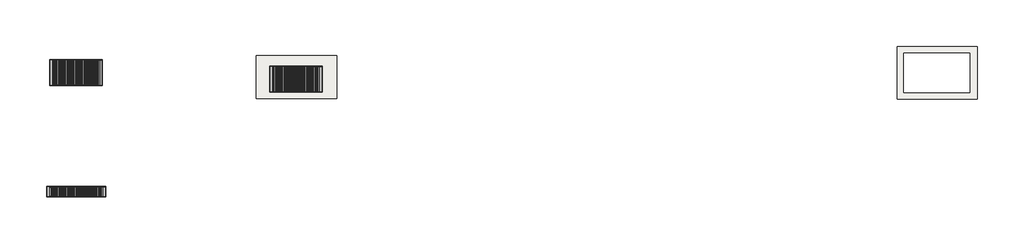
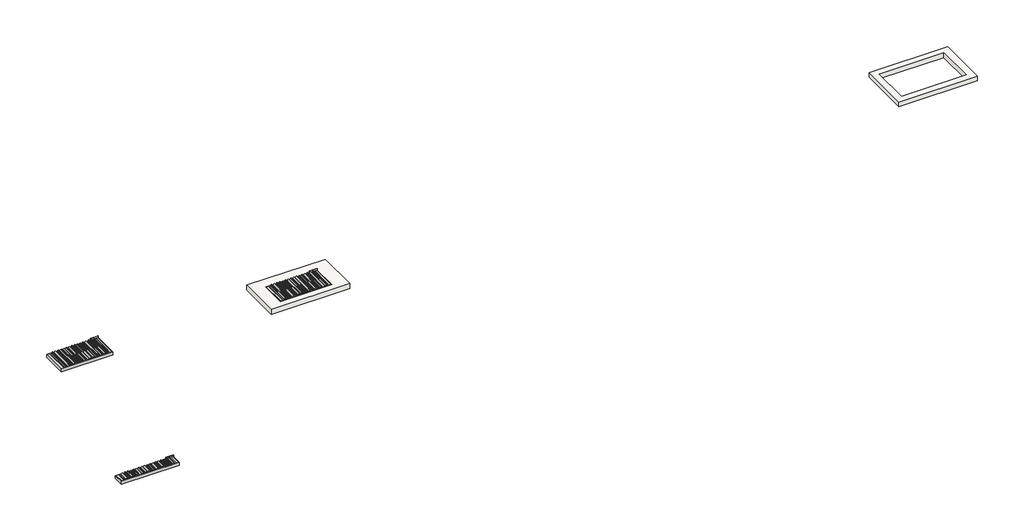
# One storey: 3 proxies, 2 roofs.
"""IFC4 building model written with IfcOpenShell, lengths in millimetres."""

import ifcopenshell
import ifcopenshell.guid

model = None  # the IFC model being written
_history = None  # IfcOwnerHistory: only IFC2X3 demands one
_inside = {}  # id of a spatial element -> (the spatial element, [elements in it])
_under = {}  # id of a project, library or spatial element -> (it, [spatial elements below it])
_declared = {}  # id of a project -> (the project, [libraries it declares])
_typed = {}  # id of a type object -> (the type object, [elements of that type])
_made_of = {}  # id of a material, layer set ... -> (it, [elements and type objects made of it])


def new_model(schema):
    """Start an empty IFC model of exactly this schema.

    Asked for "IFC4X3", IfcOpenShell would pick the latest addendum, in which some entities
    have other attributes; the version numbers below select the first issue.
    IFC2X3 requires an IfcOwnerHistory on every rooted entity: one is made here for all.
    """
    global model, _history
    if schema == "IFC4X3":
        model = ifcopenshell.file(schema_version=(4, 3, 0, 0))
    else:
        model = ifcopenshell.file(schema=schema)
    _inside.clear()
    _under.clear()
    _declared.clear()
    _typed.clear()
    _made_of.clear()
    _history = None
    if model.schema == "IFC2X3":
        org = make("IfcOrganization", Name="unknown")
        user = make(
            "IfcPersonAndOrganization",
            ThePerson=make("IfcPerson", FamilyName="unknown"),
            TheOrganization=org,
        )
        app = make(
            "IfcApplication",
            ApplicationDeveloper=org,
            Version="unknown",
            ApplicationFullName="unknown",
            ApplicationIdentifier="unknown",
        )
        _history = make(
            "IfcOwnerHistory",
            OwningUser=user,
            OwningApplication=app,
            ChangeAction="ADDED",
            CreationDate=0,
        )
    return model


def make(cls, **values):
    """One entity of the class cls with the attributes given. An attribute that is None is left unset."""
    return model.create_entity(
        cls, **{name: value for name, value in values.items() if value is not None}
    )


def rooted(cls, **values):
    """An entity with a GlobalId (a new one), such as an element, a storey or a relation."""
    return make(cls, GlobalId=ifcopenshell.guid.new(), OwnerHistory=_history, **values)


def si_unit(unit_type, name, prefix=None):
    """IfcSIUnit, for example si_unit("LENGTHUNIT", "METRE", prefix="MILLI")."""
    return make("IfcSIUnit", UnitType=unit_type, Prefix=prefix, Name=name)


def assignment(units):
    """IfcUnitAssignment: the units of a project."""
    return None if units is None else make("IfcUnitAssignment", Units=units)


def point(xyz):
    """IfcCartesianPoint."""
    return None if xyz is None else make("IfcCartesianPoint", Coordinates=xyz)


def direction(xyz):
    """IfcDirection."""
    return None if xyz is None else make("IfcDirection", DirectionRatios=xyz)


def frame(location, z_axis=None, x_axis=None):
    """IfcAxis2Placement3D, a coordinate frame: its origin and axes. An axis left out is left unset."""
    return make(
        "IfcAxis2Placement3D",
        Location=point(location),
        Axis=direction(z_axis),
        RefDirection=direction(x_axis),
    )


def frame_2d(location, x_axis=None):
    """IfcAxis2Placement2D, a coordinate frame in the plane: its origin and x axis."""
    return make(
        "IfcAxis2Placement2D", Location=point(location), RefDirection=direction(x_axis)
    )


def origin():
    """The frame at (0, 0, 0) with its axes left unset."""
    return frame((0.0, 0.0, 0.0))


def origin_with_axes():
    """The frame at (0, 0, 0) with the z axis (0, 0, 1) and the x axis (1, 0, 0) written out."""
    return frame((0.0, 0.0, 0.0), z_axis=(0.0, 0.0, 1.0), x_axis=(1.0, 0.0, 0.0))


def place(relative_to, where):
    """IfcLocalPlacement: puts the frame where relative to a parent placement (None: the world)."""
    return make(
        "IfcLocalPlacement", PlacementRelTo=relative_to, RelativePlacement=where
    )


def context(
    kind, dimensions, precision=None, world=None, true_north=None, identifier=None
):
    """IfcGeometricRepresentationContext, for example the 3D "Model" context."""
    return make(
        "IfcGeometricRepresentationContext",
        ContextIdentifier=identifier,
        ContextType=kind,
        CoordinateSpaceDimension=dimensions,
        Precision=precision,
        WorldCoordinateSystem=world,
        TrueNorth=true_north,
    )


def project(units=None, contexts=None):
    """IfcProject with its units and contexts."""
    return rooted(
        "IfcProject",
        Name="project",
        RepresentationContexts=contexts,
        UnitsInContext=assignment(units),
    )


def spatial(cls, under=None, at=None, **own):
    """A site, building, storey or space (cls), placed at a placement, below another one or the project."""
    s = rooted(cls, ObjectPlacement=at, **own)
    if under is not None:
        _under.setdefault(under.id(), (under, []))[1].append(s)
    return s


def polyline(points):
    """IfcPolyline through the points."""
    return make("IfcPolyline", Points=[point(p) for p in points])


def circle_curve(where, radius):
    """IfcCircle in the frame where."""
    return make("IfcCircle", Position=where, Radius=radius)


def trimmed(basis, trim1, trim2, sense, master):
    """IfcTrimmedCurve: the piece of a basis curve between two trims."""
    return make(
        "IfcTrimmedCurve",
        BasisCurve=basis,
        Trim1=trim1,
        Trim2=trim2,
        SenseAgreement=sense,
        MasterRepresentation=master,
    )


def segment(curve, same_sense, transition):
    """IfcCompositeCurveSegment."""
    return make(
        "IfcCompositeCurveSegment",
        Transition=transition,
        SameSense=same_sense,
        ParentCurve=curve,
    )


def composite_curve(segments, self_intersect=None):
    """IfcCompositeCurve: segments joined end to end."""
    return make("IfcCompositeCurve", Segments=segments, SelfIntersect=self_intersect)


def outline(outer, holes=None, kind="AREA"):
    """IfcArbitraryClosedProfileDef: a profile drawn as a closed curve; with holes, ...WithVoids."""
    if holes is None:
        return make("IfcArbitraryClosedProfileDef", ProfileType=kind, OuterCurve=outer)
    return make(
        "IfcArbitraryProfileDefWithVoids",
        ProfileType=kind,
        OuterCurve=outer,
        InnerCurves=holes,
    )


def extrude(swept, where, along, depth):
    """IfcExtrudedAreaSolid: the profile swept, set in the frame where, extruded along a direction by depth."""
    return make(
        "IfcExtrudedAreaSolid",
        SweptArea=swept,
        Position=where,
        ExtrudedDirection=direction(along),
        Depth=depth,
    )


def faces_of(points, faces, orient=None, outer=None):
    """IfcFace entities. A face is a list of loops; a loop is a list of indices into points, from 0.

    orient and outer hold one flag for each loop. By default every Orientation is true, the
    first loop of a face is its IfcFaceOuterBound and the others are IfcFaceBound.
    """
    made = []
    for i, loops in enumerate(faces):
        bounds = []
        for j, loop in enumerate(loops):
            is_outer = j == 0 if outer is None else outer[i][j]
            bounds.append(
                make(
                    "IfcFaceOuterBound" if is_outer else "IfcFaceBound",
                    Bound=make("IfcPolyLoop", Polygon=[points[k] for k in loop]),
                    Orientation=True if orient is None else orient[i][j],
                )
            )
        made.append(make("IfcFace", Bounds=bounds))
    return made


def faceted_brep(points, faces, orient=None, outer=None, voids=None):
    """IfcFacetedBrep: a solid bounded by flat faces; with voids (closed shells), ...WithVoids."""
    shared = [point(p) for p in points]
    hull = make("IfcClosedShell", CfsFaces=faces_of(shared, faces, orient, outer))
    if voids is None:
        return make("IfcFacetedBrep", Outer=hull)
    return make(
        "IfcFacetedBrepWithVoids",
        Outer=hull,
        Voids=[
            make(cls, CfsFaces=faces_of(shared, fs, o, b)) for cls, fs, o, b in voids
        ],
    )


def shape(context_of_items, identifier, shape_type, items):
    """IfcShapeRepresentation: the items that make up one representation, for example the "Body"."""
    return make(
        "IfcShapeRepresentation",
        ContextOfItems=context_of_items,
        RepresentationIdentifier=identifier,
        RepresentationType=shape_type,
        Items=items,
    )


def source(mapping_origin, context_of_items, identifier, shape_type, items):
    """IfcRepresentationMap: a shape defined once, which mapped items show again and again."""
    return make(
        "IfcRepresentationMap",
        MappingOrigin=mapping_origin,
        MappedRepresentation=shape(context_of_items, identifier, shape_type, items),
    )


def transform(
    local_origin,
    x_axis=None,
    y_axis=None,
    z_axis=None,
    scale=None,
    scale2=None,
    scale3=None,
    uniform=True,
):
    """IfcCartesianTransformationOperator3D, or its non-uniform kind. x_axis, y_axis, z_axis: its Axis1, 2, 3."""
    if uniform:
        return make(
            "IfcCartesianTransformationOperator3D",
            Axis1=direction(x_axis),
            Axis2=direction(y_axis),
            LocalOrigin=point(local_origin),
            Scale=scale,
            Axis3=direction(z_axis),
        )
    return make(
        "IfcCartesianTransformationOperator3DnonUniform",
        Axis1=direction(x_axis),
        Axis2=direction(y_axis),
        LocalOrigin=point(local_origin),
        Scale=scale,
        Axis3=direction(z_axis),
        Scale2=scale2,
        Scale3=scale3,
    )


def mapped(mapping_source, mapping_target):
    """IfcMappedItem: shows the shape of a source again, moved by a transform."""
    return make(
        "IfcMappedItem", MappingSource=mapping_source, MappingTarget=mapping_target
    )


def made_of(thing, what):
    """Note that an element or type object is made of a material, layer set ...; save() writes the relation."""
    if what is not None:
        _made_of.setdefault(what.id(), (what, []))[1].append(thing)
    return thing


def element(
    cls,
    number,
    at=None,
    inside=None,
    cuts=None,
    type_object=None,
    material=None,
    context=None,
    identifier="Body",
    shape_type=None,
    held_by="IfcProductDefinitionShape",
    body=None,
    shapes=None,
    **own,
):
    """One element of the class cls, such as IfcWall. Its Tag is "e" and its number.

    at: its placement. inside: the storey or other place that contains it. cuts: it is an
    opening in that element (IfcRelVoidsElement). A single representation is given by context,
    identifier, shape_type and body (its items); several are given by shapes. held_by: the class
    of the entity that holds the representations. save() writes the other relations.
    """
    e = rooted(cls, Tag="e%d" % number, ObjectPlacement=at, **own)
    if body is not None:
        shapes = [shape(context, identifier, shape_type, body)]
    if shapes is not None:
        e.Representation = make(held_by, Representations=shapes)
    if inside is not None:
        _inside.setdefault(inside.id(), (inside, []))[1].append(e)
    if cuts is not None:
        rooted(
            "IfcRelVoidsElement", RelatingBuildingElement=cuts, RelatedOpeningElement=e
        )
    if type_object is not None:
        _typed.setdefault(type_object.id(), (type_object, []))[1].append(e)
    return made_of(e, material)


def aggregate(whole, parts):
    """IfcRelAggregates: a whole, such as a stair, and the parts it consists of."""
    return rooted("IfcRelAggregates", RelatingObject=whole, RelatedObjects=parts)


def save(model, path):
    """Write the relations noted so far, then the file.

    IfcRelAggregates (storeys below a building ...), IfcRelContainedInSpatialStructure (elements
    in a storey), IfcRelDefinesByType, IfcRelAssociatesMaterial and IfcRelDeclares: one each for
    every whole, place, type object, material and project.
    """
    for whole, parts in _under.values():
        aggregate(whole, parts)
    for where, things in _inside.values():
        rooted(
            "IfcRelContainedInSpatialStructure",
            RelatedElements=things,
            RelatingStructure=where,
        )
    for kind, things in _typed.values():
        rooted("IfcRelDefinesByType", RelatedObjects=things, RelatingType=kind)
    for what, things in _made_of.values():
        rooted("IfcRelAssociatesMaterial", RelatedObjects=things, RelatingMaterial=what)
    for by, libraries in _declared.values():
        rooted("IfcRelDeclares", RelatingContext=by, RelatedDefinitions=libraries)
    model.write(path)


def generic_models_456f33a1(model_context):
    return source(origin(), model_context, "Body", "SolidModel", [
        extrude(outline(composite_curve([segment(polyline([(38.6941425, 1454.2920378), (58.328832, 1434.6573482), (81.3082125, 1452.1312752), (91.2056128, 1434.9884749), (3.54674, 1368.3311191)]), True, "CONTINUOUS"), segment(trimmed(circle_curve(frame_2d((-5.5326698, 1380.2711491)), 15.0), [point((3.54674, 1368.3311191))], [point((-15.174484, 1368.7804825))], False, "CARTESIAN"), True, "CONTINUOUS"), segment(polyline([(-15.174484, 1368.7804825), (-30.1324311, 1381.3316904), (-97.3419348, 1324.9362206), (-88.6707887, 1309.9173551), (-100.8453082, 1300.6596354), (-120.7163908, 1320.5307181), (38.6941425, 1454.2920378)]), True, "CONTINUOUS")], self_intersect=False)), frame((0.0, -935.0, 0.0), z_axis=(0.0, 1.0, 0.0), x_axis=(0.0, 0.0, 1.0)), (0.0, 0.0, 1.0), 1870.0),
        extrude(outline(composite_curve([segment(polyline([(38.6941425, 1239.2805127), (58.328832, 1219.6458231), (81.3082125, 1237.1197501), (91.2056128, 1219.9769498), (3.54674, 1153.319594)]), True, "CONTINUOUS"), segment(trimmed(circle_curve(frame_2d((-5.5326698, 1165.259624)), 15.0), [point((3.54674, 1153.319594))], [point((-15.174484, 1153.7689574))], False, "CARTESIAN"), True, "CONTINUOUS"), segment(polyline([(-15.174484, 1153.7689574), (-30.1324311, 1166.3201653), (-97.3419348, 1109.9246955), (-88.6707887, 1094.90583), (-100.8453082, 1085.6481103), (-120.7163908, 1105.519193), (38.6941425, 1239.2805127)]), True, "CONTINUOUS")], self_intersect=False)), frame((0.0, -935.0, 0.0), z_axis=(0.0, 1.0, 0.0), x_axis=(0.0, 0.0, 1.0)), (0.0, 0.0, 1.0), 1870.0),
        extrude(outline(composite_curve([segment(polyline([(38.6941425, 1024.2689876), (58.328832, 1004.634298), (81.3082125, 1022.108225), (91.2056128, 1004.9654247), (3.54674, 938.3080689)]), True, "CONTINUOUS"), segment(trimmed(circle_curve(frame_2d((-5.5326698, 950.2480989)), 15.0), [point((3.54674, 938.3080689))], [point((-15.174484, 938.7574323))], False, "CARTESIAN"), True, "CONTINUOUS"), segment(polyline([(-15.174484, 938.7574323), (-30.1324311, 951.3086402), (-97.3419348, 894.9131704), (-88.6707887, 879.8943049), (-100.8453082, 870.6365852), (-120.7163908, 890.5076679), (38.6941425, 1024.2689876)]), True, "CONTINUOUS")], self_intersect=False)), frame((0.0, -935.0, 0.0), z_axis=(0.0, 1.0, 0.0), x_axis=(0.0, 0.0, 1.0)), (0.0, 0.0, 1.0), 1870.0),
        extrude(outline(composite_curve([segment(polyline([(38.6941425, 809.2574625), (58.328832, 789.6227729), (81.3082125, 807.0966999), (91.2056128, 789.9538996), (3.54674, 723.2965438)]), True, "CONTINUOUS"), segment(trimmed(circle_curve(frame_2d((-5.5326698, 735.2365738)), 15.0), [point((3.54674, 723.2965438))], [point((-15.174484, 723.7459072))], False, "CARTESIAN"), True, "CONTINUOUS"), segment(polyline([(-15.174484, 723.7459072), (-30.1324311, 736.2971151), (-97.3419348, 679.9016453), (-88.6707887, 664.8827798), (-100.8453082, 655.6250601), (-120.7163908, 675.4961428), (38.6941425, 809.2574625)]), True, "CONTINUOUS")], self_intersect=False)), frame((0.0, -935.0, 0.0), z_axis=(0.0, 1.0, 0.0), x_axis=(0.0, 0.0, 1.0)), (0.0, 0.0, 1.0), 1870.0),
        extrude(outline(composite_curve([segment(polyline([(38.6941425, 594.2459374), (58.328832, 574.6112478), (81.3082125, 592.0851748), (91.2056128, 574.9423745), (3.54674, 508.2850187)]), True, "CONTINUOUS"), segment(trimmed(circle_curve(frame_2d((-5.5326698, 520.2250487)), 15.0), [point((3.54674, 508.2850187))], [point((-15.174484, 508.7343821))], False, "CARTESIAN"), True, "CONTINUOUS"), segment(polyline([(-15.174484, 508.7343821), (-30.1324311, 521.28559), (-97.3419348, 464.8901202), (-88.6707887, 449.8712547), (-100.8453082, 440.613535), (-120.7163908, 460.4846177), (38.6941425, 594.2459374)]), True, "CONTINUOUS")], self_intersect=False)), frame((0.0, -935.0, 0.0), z_axis=(0.0, 1.0, 0.0), x_axis=(0.0, 0.0, 1.0)), (0.0, 0.0, 1.0), 1870.0),
        extrude(outline(composite_curve([segment(polyline([(38.6941425, 379.2344123), (58.328832, 359.5997227), (81.3082125, 377.0736497), (91.2056128, 359.9308494), (3.54674, 293.2734936)]), True, "CONTINUOUS"), segment(trimmed(circle_curve(frame_2d((-5.5326698, 305.2135236)), 15.0), [point((3.54674, 293.2734936))], [point((-15.174484, 293.722857))], False, "CARTESIAN"), True, "CONTINUOUS"), segment(polyline([(-15.174484, 293.722857), (-30.1324311, 306.2740649), (-97.3419348, 249.8785951), (-88.6707887, 234.8597296), (-100.8453082, 225.6020099), (-120.7163908, 245.4730926), (38.6941425, 379.2344123)]), True, "CONTINUOUS")], self_intersect=False)), frame((0.0, -935.0, 0.0), z_axis=(0.0, 1.0, 0.0), x_axis=(0.0, 0.0, 1.0)), (0.0, 0.0, 1.0), 1870.0),
        extrude(outline(composite_curve([segment(polyline([(38.6941425, 164.2228872), (58.328832, 144.5881976), (81.3082125, 162.0621246), (91.2056128, 144.9193243), (3.54674, 78.2619685)]), True, "CONTINUOUS"), segment(trimmed(circle_curve(frame_2d((-5.5326698, 90.2019985)), 15.0), [point((3.54674, 78.2619685))], [point((-15.174484, 78.7113319))], False, "CARTESIAN"), True, "CONTINUOUS"), segment(polyline([(-15.174484, 78.7113319), (-30.1324311, 91.2625398), (-97.3419348, 34.86707), (-88.6707887, 19.8482045), (-100.8453082, 10.5904848), (-120.7163908, 30.4615675), (38.6941425, 164.2228872)]), True, "CONTINUOUS")], self_intersect=False)), frame((0.0, -935.0, 0.0), z_axis=(0.0, 1.0, 0.0), x_axis=(0.0, 0.0, 1.0)), (0.0, 0.0, 1.0), 1870.0),
        extrude(outline(composite_curve([segment(polyline([(38.6941425, -50.7886379), (58.328832, -70.4233275), (81.3082125, -52.9494005), (91.2056128, -70.0922008), (3.54674, -136.7495566)]), True, "CONTINUOUS"), segment(trimmed(circle_curve(frame_2d((-5.5326698, -124.8095266)), 15.0), [point((3.54674, -136.7495566))], [point((-15.174484, -136.3001932))], False, "CARTESIAN"), True, "CONTINUOUS"), segment(polyline([(-15.174484, -136.3001932), (-30.1324311, -123.7489853), (-97.3419348, -180.1444551), (-88.6707887, -195.1633206), (-100.8453082, -204.4210403), (-120.7163908, -184.5499576), (38.6941425, -50.7886379)]), True, "CONTINUOUS")], self_intersect=False)), frame((0.0, -935.0, 0.0), z_axis=(0.0, 1.0, 0.0), x_axis=(0.0, 0.0, 1.0)), (0.0, 0.0, 1.0), 1870.0),
        extrude(outline(composite_curve([segment(polyline([(38.6941425, -265.800163), (58.328832, -285.4348526), (81.3082125, -267.9609256), (91.2056128, -285.1037259), (3.54674, -351.7610817)]), True, "CONTINUOUS"), segment(trimmed(circle_curve(frame_2d((-5.5326698, -339.8210517)), 15.0), [point((3.54674, -351.7610817))], [point((-15.174484, -351.3117183))], False, "CARTESIAN"), True, "CONTINUOUS"), segment(polyline([(-15.174484, -351.3117183), (-30.1324311, -338.7605104), (-97.3419348, -395.1559802), (-88.6707887, -410.1748457), (-100.8453082, -419.4325654), (-120.7163908, -399.5614827), (38.6941425, -265.800163)]), True, "CONTINUOUS")], self_intersect=False)), frame((0.0, -935.0, 0.0), z_axis=(0.0, 1.0, 0.0), x_axis=(0.0, 0.0, 1.0)), (0.0, 0.0, 1.0), 1870.0),
        extrude(outline(composite_curve([segment(polyline([(38.6941425, -480.8116881), (58.328832, -500.4463777), (81.3082125, -482.9724507), (91.2056128, -500.115251), (3.54674, -566.7726068)]), True, "CONTINUOUS"), segment(trimmed(circle_curve(frame_2d((-5.5326698, -554.8325768)), 15.0), [point((3.54674, -566.7726068))], [point((-15.174484, -566.3232434))], False, "CARTESIAN"), True, "CONTINUOUS"), segment(polyline([(-15.174484, -566.3232434), (-30.1324311, -553.7720355), (-97.3419348, -610.1675053), (-88.6707887, -625.1863708), (-100.8453082, -634.4440905), (-120.7163908, -614.5730078), (38.6941425, -480.8116881)]), True, "CONTINUOUS")], self_intersect=False)), frame((0.0, -935.0, 0.0), z_axis=(0.0, 1.0, 0.0), x_axis=(0.0, 0.0, 1.0)), (0.0, 0.0, 1.0), 1870.0),
        extrude(outline(composite_curve([segment(polyline([(38.6941425, -695.8232132), (58.328832, -715.4579028), (81.3082125, -697.9839758), (91.2056128, -715.1267761), (3.54674, -781.7841319)]), True, "CONTINUOUS"), segment(trimmed(circle_curve(frame_2d((-5.5326698, -769.8441019)), 15.0), [point((3.54674, -781.7841319))], [point((-15.174484, -781.3347685))], False, "CARTESIAN"), True, "CONTINUOUS"), segment(polyline([(-15.174484, -781.3347685), (-30.1324311, -768.7835606), (-97.3419348, -825.1790304), (-88.6707887, -840.1978959), (-100.8453082, -849.4556156), (-120.7163908, -829.5845329), (38.6941425, -695.8232132)]), True, "CONTINUOUS")], self_intersect=False)), frame((0.0, -935.0, 0.0), z_axis=(0.0, 1.0, 0.0), x_axis=(0.0, 0.0, 1.0)), (0.0, 0.0, 1.0), 1870.0),
        extrude(outline(composite_curve([segment(polyline([(38.6941425, -910.8347383), (58.328832, -930.4694279), (81.3082125, -912.9955009), (91.2056128, -930.1383012), (3.54674, -996.795657)]), True, "CONTINUOUS"), segment(trimmed(circle_curve(frame_2d((-5.5326698, -984.855627)), 15.0), [point((3.54674, -996.795657))], [point((-15.174484, -996.3462936))], False, "CARTESIAN"), True, "CONTINUOUS"), segment(polyline([(-15.174484, -996.3462936), (-30.1324311, -983.7950857), (-97.3419348, -1040.1905555), (-88.6707887, -1055.209421), (-100.8453082, -1064.4671407), (-120.7163908, -1044.596058), (38.6941425, -910.8347383)]), True, "CONTINUOUS")], self_intersect=False)), frame((0.0, -935.0, 0.0), z_axis=(0.0, 1.0, 0.0), x_axis=(0.0, 0.0, 1.0)), (0.0, 0.0, 1.0), 1870.0),
        extrude(outline(composite_curve([segment(polyline([(38.6941425, -1125.8462634), (58.328832, -1145.480953), (81.3082125, -1128.007026), (91.2056128, -1145.1498263), (3.54674, -1211.8071821)]), True, "CONTINUOUS"), segment(trimmed(circle_curve(frame_2d((-5.5326698, -1199.8671521)), 15.0), [point((3.54674, -1211.8071821))], [point((-15.174484, -1211.3578187))], False, "CARTESIAN"), True, "CONTINUOUS"), segment(polyline([(-15.174484, -1211.3578187), (-30.1324311, -1198.8066108), (-97.3419348, -1255.2020806), (-88.6707887, -1270.2209461), (-100.8453082, -1279.4786658), (-120.7163908, -1259.6075831), (38.6941425, -1125.8462634)]), True, "CONTINUOUS")], self_intersect=False)), frame((0.0, -935.0, 0.0), z_axis=(0.0, 1.0, 0.0), x_axis=(0.0, 0.0, 1.0)), (0.0, 0.0, 1.0), 1870.0),
        extrude(outline(composite_curve([segment(polyline([(38.6941425, -1340.8577885), (58.328832, -1360.4924781), (81.3082125, -1343.0185511), (91.2056128, -1360.1613514), (3.54674, -1426.8187072)]), True, "CONTINUOUS"), segment(trimmed(circle_curve(frame_2d((-5.5326698, -1414.8786772)), 15.0), [point((3.54674, -1426.8187072))], [point((-15.174484, -1426.3693438))], False, "CARTESIAN"), True, "CONTINUOUS"), segment(polyline([(-15.174484, -1426.3693438), (-30.1324311, -1413.8181359), (-97.3419348, -1470.2136057), (-88.6707887, -1485.2324712), (-100.8453082, -1494.4901909), (-120.7163908, -1474.6191082), (38.6941425, -1340.8577885)]), True, "CONTINUOUS")], self_intersect=False)), frame((0.0, -935.0, 0.0), z_axis=(0.0, 1.0, 0.0), x_axis=(0.0, 0.0, 1.0)), (0.0, 0.0, 1.0), 1870.0),
        extrude(outline(composite_curve([segment(polyline([(38.6941425, 1669.3035629), (58.328832, 1649.6688733), (81.3082125, 1667.1428003), (91.2056128, 1650.0), (3.54674, 1583.3426442)]), True, "CONTINUOUS"), segment(trimmed(circle_curve(frame_2d((-5.5326698, 1595.2826742)), 15.0), [point((3.54674, 1583.3426442))], [point((-15.174484, 1583.7920076))], False, "CARTESIAN"), True, "CONTINUOUS"), segment(polyline([(-15.174484, 1583.7920076), (-30.1324311, 1596.3432155), (-97.3419348, 1539.9477457), (-88.6707887, 1524.9288802), (-100.8453082, 1515.6711605), (-120.7163908, 1535.5422432), (38.6941425, 1669.3035629)]), True, "CONTINUOUS")], self_intersect=False)), frame((0.0, -935.0, 0.0), z_axis=(0.0, 1.0, 0.0), x_axis=(0.0, 0.0, 1.0)), (0.0, 0.0, 1.0), 1870.0),
        extrude(outline(composite_curve([segment(polyline([(38.6941425, -1555.8693136), (58.328832, -1575.5040032), (81.3082125, -1558.0300762), (91.2056128, -1575.1728765), (3.54674, -1641.8302323)]), True, "CONTINUOUS"), segment(trimmed(circle_curve(frame_2d((-5.5326698, -1629.8902023)), 15.0), [point((3.54674, -1641.8302323))], [point((-15.174484, -1641.3808689))], False, "CARTESIAN"), True, "CONTINUOUS"), segment(polyline([(-15.174484, -1641.3808689), (-30.1324311, -1628.829661), (-97.3419348, -1685.2251308), (-88.6707887, -1700.2439963), (-100.8453082, -1709.501716), (-120.7163908, -1689.6306333), (38.6941425, -1555.8693136)]), True, "CONTINUOUS")], self_intersect=False)), frame((0.0, -935.0, 0.0), z_axis=(0.0, 1.0, 0.0), x_axis=(0.0, 0.0, 1.0)), (0.0, 0.0, 1.0), 1870.0),
        extrude(outline(polyline([(-63.35, 1960.0), (0.0, 1960.0), (0.0, 1830.5), (-20.0, 1830.5), (-20.0, 1650.0), (-44.0, 1650.0), (-44.0, 1800.0), (-63.35, 1800.0), (-63.35, 1960.0)])), frame((0.0, -960.0, 0.0), z_axis=(0.0, 1.0, 0.0), x_axis=(0.0, 0.0, 1.0)), (0.0, 0.0, 1.0), 1920.0),
        extrude(outline(polyline([(0.0, -1800.0), (0.0, -1960.0), (-44.0, -1960.0), (-44.0, -1827.3193336), (-10.8283397, -1824.4171894), (-9.655498, -1800.0), (0.0, -1800.0)])), frame((0.0, -960.0, 0.0), z_axis=(0.0, 1.0, 0.0), x_axis=(0.0, 0.0, 1.0)), (0.0, 0.0, 1.0), 1920.0),
        extrude(outline(polyline([(2000.0, 1000.0), (2000.0, 960.0), (1410.0, 960.0), (1410.0, 1000.0), (2000.0, 1000.0)])), origin_with_axes(), (0.0, 0.0, 1.0), 130.0),
        faceted_brep([(-1960.0, 960.0, 0.0), (-1960.0, 960.0, -173.0), (1960.0, 960.0, -173.0), (1960.0, 960.0, 0.0), (-2000.0, 1000.0, -230.0), (-2000.0, 1000.0, 0.0), (2000.0, 1000.0, 0.0), (2000.0, 1000.0, -230.0), (-1890.0, 890.0, -173.0), (-1890.0, 890.0, -230.0), (1890.0, 890.0, -230.0), (1890.0, 890.0, -173.0), (1960.0, -960.0, -173.0), (1960.0, -960.0, 0.0), (2000.0, -1000.0, 0.0), (2000.0, -1000.0, -230.0), (1890.0, -890.0, -230.0), (1890.0, -890.0, -173.0), (-1960.0, -960.0, -173.0), (-1960.0, -960.0, 0.0), (-2000.0, -1000.0, 0.0), (-2000.0, -1000.0, -230.0), (-1890.0, -890.0, -230.0), (-1890.0, -890.0, -173.0)], [[[0, 1, 2, 3]], [[4, 5, 6, 7]], [[8, 9, 10, 11]], [[3, 2, 12, 13]], [[7, 6, 14, 15]], [[11, 10, 16, 17]], [[13, 12, 18, 19]], [[15, 14, 20, 21]], [[17, 16, 22, 23]], [[19, 18, 1, 0]], [[5, 20, 14, 6], [3, 13, 19, 0]], [[21, 20, 5, 4]], [[7, 15, 21, 4], [9, 22, 16, 10]], [[23, 22, 9, 8]], [[1, 18, 12, 2], [11, 17, 23, 8]]]),
    ])


def generic_models_9f0a1203(model_context):
    return source(origin(), model_context, "Body", "SolidModel", [
        extrude(outline(composite_curve([segment(polyline([(38.6941425, 1704.2933937), (58.328832, 1684.6587041), (81.3082125, 1702.1326311), (91.2056128, 1684.9898308), (3.54674, 1618.332475)]), True, "CONTINUOUS"), segment(trimmed(circle_curve(frame_2d((-5.5326698, 1630.272505)), 15.0), [point((3.54674, 1618.332475))], [point((-15.174484, 1618.7818384))], False, "CARTESIAN"), True, "CONTINUOUS"), segment(polyline([(-15.174484, 1618.7818384), (-30.1324311, 1631.3330463), (-97.3419348, 1574.9375765), (-88.6707887, 1559.918711), (-100.8453082, 1550.6609913), (-120.7163908, 1570.532074), (38.6941425, 1704.2933937)]), True, "CONTINUOUS")], self_intersect=False)), frame((0.0, -335.0, 0.0), z_axis=(0.0, 1.0, 0.0), x_axis=(0.0, 0.0, 1.0)), (0.0, 0.0, 1.0), 670.0),
        extrude(outline(composite_curve([segment(polyline([(38.6941425, 1489.2832245), (58.328832, 1469.6485349), (81.3082125, 1487.1224619), (91.2056128, 1469.9796616), (3.54674, 1403.3223058)]), True, "CONTINUOUS"), segment(trimmed(circle_curve(frame_2d((-5.5326698, 1415.2623358)), 15.0), [point((3.54674, 1403.3223058))], [point((-15.174484, 1403.7716691))], False, "CARTESIAN"), True, "CONTINUOUS"), segment(polyline([(-15.174484, 1403.7716691), (-30.1324311, 1416.3228771), (-97.3419348, 1359.9274073), (-88.6707887, 1344.9085418), (-100.8453082, 1335.6508221), (-120.7163908, 1355.5219048), (38.6941425, 1489.2832245)]), True, "CONTINUOUS")], self_intersect=False)), frame((0.0, -335.0, 0.0), z_axis=(0.0, 1.0, 0.0), x_axis=(0.0, 0.0, 1.0)), (0.0, 0.0, 1.0), 670.0),
        extrude(outline(composite_curve([segment(polyline([(38.6941425, 1274.2730553), (58.328832, 1254.6383657), (81.3082125, 1272.1122927), (91.2056128, 1254.9694924), (3.54674, 1188.3121365)]), True, "CONTINUOUS"), segment(trimmed(circle_curve(frame_2d((-5.5326698, 1200.2521666)), 15.0), [point((3.54674, 1188.3121365))], [point((-15.174484, 1188.7614999))], False, "CARTESIAN"), True, "CONTINUOUS"), segment(polyline([(-15.174484, 1188.7614999), (-30.1324311, 1201.3127079), (-97.3419348, 1144.9172381), (-88.6707887, 1129.8983726), (-100.8453082, 1120.6406529), (-120.7163908, 1140.5117356), (38.6941425, 1274.2730553)]), True, "CONTINUOUS")], self_intersect=False)), frame((0.0, -335.0, 0.0), z_axis=(0.0, 1.0, 0.0), x_axis=(0.0, 0.0, 1.0)), (0.0, 0.0, 1.0), 670.0),
        extrude(outline(composite_curve([segment(polyline([(38.6941425, 1059.2628861), (58.328832, 1039.6281965), (81.3082125, 1057.1021235), (91.2056128, 1039.9593232), (3.54674, 973.3019673)]), True, "CONTINUOUS"), segment(trimmed(circle_curve(frame_2d((-5.5326698, 985.2419974)), 15.0), [point((3.54674, 973.3019673))], [point((-15.174484, 973.7513307))], False, "CARTESIAN"), True, "CONTINUOUS"), segment(polyline([(-15.174484, 973.7513307), (-30.1324311, 986.3025387), (-97.3419348, 929.9070689), (-88.6707887, 914.8882034), (-100.8453082, 905.6304837), (-120.7163908, 925.5015664), (38.6941425, 1059.2628861)]), True, "CONTINUOUS")], self_intersect=False)), frame((0.0, -335.0, 0.0), z_axis=(0.0, 1.0, 0.0), x_axis=(0.0, 0.0, 1.0)), (0.0, 0.0, 1.0), 670.0),
        extrude(outline(composite_curve([segment(polyline([(38.6941425, 844.2527169), (58.328832, 824.6180273), (81.3082125, 842.0919543), (91.2056128, 824.949154), (3.54674, 758.2917981)]), True, "CONTINUOUS"), segment(trimmed(circle_curve(frame_2d((-5.5326698, 770.2318282)), 15.0), [point((3.54674, 758.2917981))], [point((-15.174484, 758.7411615))], False, "CARTESIAN"), True, "CONTINUOUS"), segment(polyline([(-15.174484, 758.7411615), (-30.1324311, 771.2923694), (-97.3419348, 714.8968997), (-88.6707887, 699.8780342), (-100.8453082, 690.6203145), (-120.7163908, 710.4913972), (38.6941425, 844.2527169)]), True, "CONTINUOUS")], self_intersect=False)), frame((0.0, -335.0, 0.0), z_axis=(0.0, 1.0, 0.0), x_axis=(0.0, 0.0, 1.0)), (0.0, 0.0, 1.0), 670.0),
        extrude(outline(composite_curve([segment(polyline([(38.6941425, 629.2425476), (58.328832, 609.6078581), (81.3082125, 627.0817851), (91.2056128, 609.9389848), (3.54674, 543.2816289)]), True, "CONTINUOUS"), segment(trimmed(circle_curve(frame_2d((-5.5326698, 555.221659)), 15.0), [point((3.54674, 543.2816289))], [point((-15.174484, 543.7309923))], False, "CARTESIAN"), True, "CONTINUOUS"), segment(polyline([(-15.174484, 543.7309923), (-30.1324311, 556.2822002), (-97.3419348, 499.8867305), (-88.6707887, 484.867865), (-100.8453082, 475.6101453), (-120.7163908, 495.481228), (38.6941425, 629.2425476)]), True, "CONTINUOUS")], self_intersect=False)), frame((0.0, -335.0, 0.0), z_axis=(0.0, 1.0, 0.0), x_axis=(0.0, 0.0, 1.0)), (0.0, 0.0, 1.0), 670.0),
        extrude(outline(composite_curve([segment(polyline([(38.6941425, 414.2323784), (58.328832, 394.5976889), (81.3082125, 412.0716159), (91.2056128, 394.9288156), (3.54674, 328.2714597)]), True, "CONTINUOUS"), segment(trimmed(circle_curve(frame_2d((-5.5326698, 340.2114898)), 15.0), [point((3.54674, 328.2714597))], [point((-15.174484, 328.7208231))], False, "CARTESIAN"), True, "CONTINUOUS"), segment(polyline([(-15.174484, 328.7208231), (-30.1324311, 341.272031), (-97.3419348, 284.8765613), (-88.6707887, 269.8576958), (-100.8453082, 260.5999761), (-120.7163908, 280.4710587), (38.6941425, 414.2323784)]), True, "CONTINUOUS")], self_intersect=False)), frame((0.0, -335.0, 0.0), z_axis=(0.0, 1.0, 0.0), x_axis=(0.0, 0.0, 1.0)), (0.0, 0.0, 1.0), 670.0),
        extrude(outline(composite_curve([segment(polyline([(38.6941425, 199.2222092), (58.328832, 179.5875197), (81.3082125, 197.0614467), (91.2056128, 179.9186464), (3.54674, 113.2612905)]), True, "CONTINUOUS"), segment(trimmed(circle_curve(frame_2d((-5.5326698, 125.2013206)), 15.0), [point((3.54674, 113.2612905))], [point((-15.174484, 113.7106539))], False, "CARTESIAN"), True, "CONTINUOUS"), segment(polyline([(-15.174484, 113.7106539), (-30.1324311, 126.2618618), (-97.3419348, 69.8663921), (-88.6707887, 54.8475266), (-100.8453082, 45.5898069), (-120.7163908, 65.4608895), (38.6941425, 199.2222092)]), True, "CONTINUOUS")], self_intersect=False)), frame((0.0, -335.0, 0.0), z_axis=(0.0, 1.0, 0.0), x_axis=(0.0, 0.0, 1.0)), (0.0, 0.0, 1.0), 670.0),
        extrude(outline(composite_curve([segment(polyline([(38.6941425, -15.78796), (58.328832, -35.4226495), (81.3082125, -17.9487226), (91.2056128, -35.0915229), (3.54674, -101.7488787)]), True, "CONTINUOUS"), segment(trimmed(circle_curve(frame_2d((-5.5326698, -89.8088487)), 15.0), [point((3.54674, -101.7488787))], [point((-15.174484, -101.2995153))], False, "CARTESIAN"), True, "CONTINUOUS"), segment(polyline([(-15.174484, -101.2995153), (-30.1324311, -88.7483074), (-97.3419348, -145.1437771), (-88.6707887, -160.1626426), (-100.8453082, -169.4203623), (-120.7163908, -149.5492797), (38.6941425, -15.78796)]), True, "CONTINUOUS")], self_intersect=False)), frame((0.0, -335.0, 0.0), z_axis=(0.0, 1.0, 0.0), x_axis=(0.0, 0.0, 1.0)), (0.0, 0.0, 1.0), 670.0),
        extrude(outline(composite_curve([segment(polyline([(38.6941425, -230.7981292), (58.328832, -250.4328187), (81.3082125, -232.9588918), (91.2056128, -250.1016921), (3.54674, -316.7590479)]), True, "CONTINUOUS"), segment(trimmed(circle_curve(frame_2d((-5.5326698, -304.8190179)), 15.0), [point((3.54674, -316.7590479))], [point((-15.174484, -316.3096845))], False, "CARTESIAN"), True, "CONTINUOUS"), segment(polyline([(-15.174484, -316.3096845), (-30.1324311, -303.7584766), (-97.3419348, -360.1539463), (-88.6707887, -375.1728118), (-100.8453082, -384.4305315), (-120.7163908, -364.5594489), (38.6941425, -230.7981292)]), True, "CONTINUOUS")], self_intersect=False)), frame((0.0, -335.0, 0.0), z_axis=(0.0, 1.0, 0.0), x_axis=(0.0, 0.0, 1.0)), (0.0, 0.0, 1.0), 670.0),
        extrude(outline(composite_curve([segment(polyline([(38.6941425, -445.8082984), (58.328832, -465.4429879), (81.3082125, -447.969061), (91.2056128, -465.1118613), (3.54674, -531.7692171)]), True, "CONTINUOUS"), segment(trimmed(circle_curve(frame_2d((-5.5326698, -519.8291871)), 15.0), [point((3.54674, -531.7692171))], [point((-15.174484, -531.3198537))], False, "CARTESIAN"), True, "CONTINUOUS"), segment(polyline([(-15.174484, -531.3198537), (-30.1324311, -518.7686458), (-97.3419348, -575.1641155), (-88.6707887, -590.182981), (-100.8453082, -599.4407007), (-120.7163908, -579.5696181), (38.6941425, -445.8082984)]), True, "CONTINUOUS")], self_intersect=False)), frame((0.0, -335.0, 0.0), z_axis=(0.0, 1.0, 0.0), x_axis=(0.0, 0.0, 1.0)), (0.0, 0.0, 1.0), 670.0),
        extrude(outline(composite_curve([segment(polyline([(38.6941425, -660.8184676), (58.328832, -680.4531571), (81.3082125, -662.9792302), (91.2056128, -680.1220305), (3.54674, -746.7793863)]), True, "CONTINUOUS"), segment(trimmed(circle_curve(frame_2d((-5.5326698, -734.8393563)), 15.0), [point((3.54674, -746.7793863))], [point((-15.174484, -746.3300229))], False, "CARTESIAN"), True, "CONTINUOUS"), segment(polyline([(-15.174484, -746.3300229), (-30.1324311, -733.778815), (-97.3419348, -790.1742848), (-88.6707887, -805.1931502), (-100.8453082, -814.4508699), (-120.7163908, -794.5797873), (38.6941425, -660.8184676)]), True, "CONTINUOUS")], self_intersect=False)), frame((0.0, -335.0, 0.0), z_axis=(0.0, 1.0, 0.0), x_axis=(0.0, 0.0, 1.0)), (0.0, 0.0, 1.0), 670.0),
        extrude(outline(composite_curve([segment(polyline([(38.6941425, -875.8286368), (58.328832, -895.4633263), (81.3082125, -877.9893994), (91.2056128, -895.1321997), (3.54674, -961.7895555)]), True, "CONTINUOUS"), segment(trimmed(circle_curve(frame_2d((-5.5326698, -949.8495255)), 15.0), [point((3.54674, -961.7895555))], [point((-15.174484, -961.3401921))], False, "CARTESIAN"), True, "CONTINUOUS"), segment(polyline([(-15.174484, -961.3401921), (-30.1324311, -948.7889842), (-97.3419348, -1005.184454), (-88.6707887, -1020.2033194), (-100.8453082, -1029.4610391), (-120.7163908, -1009.5899565), (38.6941425, -875.8286368)]), True, "CONTINUOUS")], self_intersect=False)), frame((0.0, -335.0, 0.0), z_axis=(0.0, 1.0, 0.0), x_axis=(0.0, 0.0, 1.0)), (0.0, 0.0, 1.0), 670.0),
        extrude(outline(composite_curve([segment(polyline([(38.6941425, -1090.838806), (58.328832, -1110.4734955), (81.3082125, -1092.9995686), (91.2056128, -1110.1423689), (3.54674, -1176.7997247)]), True, "CONTINUOUS"), segment(trimmed(circle_curve(frame_2d((-5.5326698, -1164.8596947)), 15.0), [point((3.54674, -1176.7997247))], [point((-15.174484, -1176.3503613))], False, "CARTESIAN"), True, "CONTINUOUS"), segment(polyline([(-15.174484, -1176.3503613), (-30.1324311, -1163.7991534), (-97.3419348, -1220.1946232), (-88.6707887, -1235.2134887), (-100.8453082, -1244.4712084), (-120.7163908, -1224.6001257), (38.6941425, -1090.838806)]), True, "CONTINUOUS")], self_intersect=False)), frame((0.0, -335.0, 0.0), z_axis=(0.0, 1.0, 0.0), x_axis=(0.0, 0.0, 1.0)), (0.0, 0.0, 1.0), 670.0),
        extrude(outline(composite_curve([segment(polyline([(38.6941425, -1305.8489752), (58.328832, -1325.4836647), (81.3082125, -1308.0097378), (91.2056128, -1325.1525381), (3.54674, -1391.8098939)]), True, "CONTINUOUS"), segment(trimmed(circle_curve(frame_2d((-5.5326698, -1379.8698639)), 15.0), [point((3.54674, -1391.8098939))], [point((-15.174484, -1391.3605305))], False, "CARTESIAN"), True, "CONTINUOUS"), segment(polyline([(-15.174484, -1391.3605305), (-30.1324311, -1378.8093226), (-97.3419348, -1435.2047924), (-88.6707887, -1450.2236579), (-100.8453082, -1459.4813776), (-120.7163908, -1439.6102949), (38.6941425, -1305.8489752)]), True, "CONTINUOUS")], self_intersect=False)), frame((0.0, -335.0, 0.0), z_axis=(0.0, 1.0, 0.0), x_axis=(0.0, 0.0, 1.0)), (0.0, 0.0, 1.0), 670.0),
        extrude(outline(composite_curve([segment(polyline([(38.6941425, -1520.8591444), (58.328832, -1540.493834), (81.3082125, -1523.019907), (91.2056128, -1540.1627073), (3.54674, -1606.8200631)]), True, "CONTINUOUS"), segment(trimmed(circle_curve(frame_2d((-5.5326698, -1594.8800331)), 15.0), [point((3.54674, -1606.8200631))], [point((-15.174484, -1606.3706997))], False, "CARTESIAN"), True, "CONTINUOUS"), segment(polyline([(-15.174484, -1606.3706997), (-30.1324311, -1593.8194918), (-97.3419348, -1650.2149616), (-88.6707887, -1665.2338271), (-100.8453082, -1674.4915468), (-120.7163908, -1654.6204641), (38.6941425, -1520.8591444)]), True, "CONTINUOUS")], self_intersect=False)), frame((0.0, -335.0, 0.0), z_axis=(0.0, 1.0, 0.0), x_axis=(0.0, 0.0, 1.0)), (0.0, 0.0, 1.0), 670.0),
        extrude(outline(composite_curve([segment(polyline([(38.6941425, 1919.3035629), (58.328832, 1899.6688733), (81.3082125, 1917.1428003), (91.2056128, 1900.0), (3.54674, 1833.3426442)]), True, "CONTINUOUS"), segment(trimmed(circle_curve(frame_2d((-5.5326698, 1845.2826742)), 15.0), [point((3.54674, 1833.3426442))], [point((-15.174484, 1833.7920076))], False, "CARTESIAN"), True, "CONTINUOUS"), segment(polyline([(-15.174484, 1833.7920076), (-30.1324311, 1846.3432155), (-97.3419348, 1789.9477457), (-88.6707887, 1774.9288802), (-100.8453082, 1765.6711605), (-120.7163908, 1785.5422432), (38.6941425, 1919.3035629)]), True, "CONTINUOUS")], self_intersect=False)), frame((0.0, -335.0, 0.0), z_axis=(0.0, 1.0, 0.0), x_axis=(0.0, 0.0, 1.0)), (0.0, 0.0, 1.0), 670.0),
        extrude(outline(composite_curve([segment(polyline([(38.6941425, -1735.8693136), (58.328832, -1755.5040032), (81.3082125, -1738.0300762), (91.2056128, -1755.1728765), (3.54674, -1821.8302323)]), True, "CONTINUOUS"), segment(trimmed(circle_curve(frame_2d((-5.5326698, -1809.8902023)), 15.0), [point((3.54674, -1821.8302323))], [point((-15.174484, -1821.3808689))], False, "CARTESIAN"), True, "CONTINUOUS"), segment(polyline([(-15.174484, -1821.3808689), (-30.1324311, -1808.829661), (-97.3419348, -1865.2251308), (-88.6707887, -1880.2439963), (-100.8453082, -1889.501716), (-120.7163908, -1869.6306333), (38.6941425, -1735.8693136)]), True, "CONTINUOUS")], self_intersect=False)), frame((0.0, -335.0, 0.0), z_axis=(0.0, 1.0, 0.0), x_axis=(0.0, 0.0, 1.0)), (0.0, 0.0, 1.0), 670.0),
        extrude(outline(polyline([(-63.35, 2210.0), (0.0, 2210.0), (0.0, 2080.5), (-20.0, 2080.5), (-20.0, 1900.0), (-44.0, 1900.0), (-44.0, 2050.0), (-63.35, 2050.0), (-63.35, 2210.0)])), frame((0.0, -360.0, 0.0), z_axis=(0.0, 1.0, 0.0), x_axis=(0.0, 0.0, 1.0)), (0.0, 0.0, 1.0), 720.0),
        extrude(outline(polyline([(0.0, -2050.0), (0.0, -2210.0), (-44.0, -2210.0), (-44.0, -2077.3193336), (-10.8283397, -2074.4171894), (-9.655498, -2050.0), (0.0, -2050.0)])), frame((0.0, -360.0, 0.0), z_axis=(0.0, 1.0, 0.0), x_axis=(0.0, 0.0, 1.0)), (0.0, 0.0, 1.0), 720.0),
        extrude(outline(polyline([(2250.0, 400.0), (2250.0, 360.0), (1660.0, 360.0), (1660.0, 400.0), (2250.0, 400.0)])), origin_with_axes(), (0.0, 0.0, 1.0), 130.0),
        faceted_brep([(-2210.0, 360.0, 0.0), (-2210.0, 360.0, -173.0), (2210.0, 360.0, -173.0), (2210.0, 360.0, 0.0), (-2250.0, 400.0, -230.0), (-2250.0, 400.0, 0.0), (2250.0, 400.0, 0.0), (2250.0, 400.0, -230.0), (-2140.0, 290.0, -173.0), (-2140.0, 290.0, -230.0), (2140.0, 290.0, -230.0), (2140.0, 290.0, -173.0), (2210.0, -360.0, -173.0), (2210.0, -360.0, 0.0), (2250.0, -400.0, 0.0), (2250.0, -400.0, -230.0), (2140.0, -290.0, -230.0), (2140.0, -290.0, -173.0), (-2210.0, -360.0, -173.0), (-2210.0, -360.0, 0.0), (-2250.0, -400.0, 0.0), (-2250.0, -400.0, -230.0), (-2140.0, -290.0, -230.0), (-2140.0, -290.0, -173.0)], [[[0, 1, 2, 3]], [[4, 5, 6, 7]], [[8, 9, 10, 11]], [[3, 2, 12, 13]], [[7, 6, 14, 15]], [[11, 10, 16, 17]], [[13, 12, 18, 19]], [[15, 14, 20, 21]], [[17, 16, 22, 23]], [[19, 18, 1, 0]], [[5, 20, 14, 6], [3, 13, 19, 0]], [[21, 20, 5, 4]], [[7, 15, 21, 4], [9, 22, 16, 10]], [[23, 22, 9, 8]], [[1, 18, 12, 2], [11, 17, 23, 8]]]),
    ])


model = new_model("IFC4")

# Units and contexts
model_context = context("Model", 3, world=origin())
ifc_project = project(units=[si_unit("LENGTHUNIT", "METRE", prefix="MILLI")], contexts=[model_context])

# Site, building, storey
site = spatial("IfcSite", under=ifc_project)
building = spatial("IfcBuilding", under=site)
storey = spatial("IfcBuildingStorey", under=building, Name="REN - Top", Elevation=4000.0)

# Proxies
placement = place(None, origin())
generic_models_shape = generic_models_456f33a1(model_context)
element("IfcBuildingElementProxy", 1, Name="Renson_Aero_Patio covers : Aero - Single", ObjectType="Renson_Aero_Patio covers : Aero - Single", at=placement, inside=storey, context=model_context, shape_type="MappedRepresentation", body=[
    mapped(generic_models_shape, transform((7443.8510454, -198.4078371, 4000.0), x_axis=(1.0, 0.0, 0.0), y_axis=(0.0, 1.0, 0.0), z_axis=(0.0, 0.0, 1.0))),
])
element("IfcBuildingElementProxy", 2, Name="Renson_Aero_Patio covers : Aero - Single", ObjectType="Renson_Aero_Patio covers : Aero - Single", at=placement, inside=storey, context=model_context, shape_type="MappedRepresentation", body=[
    mapped(generic_models_shape, transform((-9286.834943, 301.5921629, 4000.0), x_axis=(1.0, 0.0, 0.0), y_axis=(0.0, 1.0, 0.0), z_axis=(0.0, 0.0, 1.0))),
])
generic_models_2_shape = generic_models_9f0a1203(model_context)
element("IfcBuildingElementProxy", 3, Name="Renson_Aero_Patio covers : Aero - Single", ObjectType="Renson_Aero_Patio covers : Aero - Single", at=placement, inside=storey, context=model_context, shape_type="MappedRepresentation", body=[
    mapped(generic_models_2_shape, transform((-9286.834943, -8798.4078371, 0.0), x_axis=(1.0, 0.0, 0.0), y_axis=(0.0, 1.0, 0.0), z_axis=(0.0, 0.0, 1.0))),
])

# Roofs
element("IfcRoof", 4, ObjectType="Generic - 400mm", at=placement, inside=storey, context=model_context, shape_type="SweptSolid", body=[
    extrude(outline(polyline([(10543.8510454, 1601.5921629), (10543.8510454, -1698.4078371), (4443.8510454, -1698.4078371), (4443.8510454, 1601.5921629), (10543.8510454, 1601.5921629)]), holes=[polyline([(9443.8510454, 801.5921629), (5443.8510454, 801.5921629), (5443.8510454, -1198.4078371), (9443.8510454, -1198.4078371), (9443.8510454, 801.5921629)])]), frame((0.0, 0.0, 3600.0), z_axis=(0.0, 0.0, 1.0), x_axis=(1.0, 0.0, 0.0)), (0.0, 0.0, 1.0), 400.0),
])
element("IfcRoof", 5, ObjectType="Generic - 400mm", at=placement, inside=storey, context=model_context, shape_type="SweptSolid", body=[
    extrude(outline(polyline([(59333.8596032, 2291.5921629), (59333.8596032, -1708.4078371), (53233.8596032, -1708.4078371), (53233.8596032, 2291.5921629), (59333.8596032, 2291.5921629)]), holes=[polyline([(58733.8596032, 1791.5921629), (53733.8596032, 1791.5921629), (53733.8596032, -1208.4078371), (58733.8596032, -1208.4078371), (58733.8596032, 1791.5921629)])]), frame((0.0, 0.0, 3600.0), z_axis=(0.0, 0.0, 1.0), x_axis=(1.0, 0.0, 0.0)), (0.0, 0.0, 1.0), 400.0),
])

save(model, "model.ifc")
